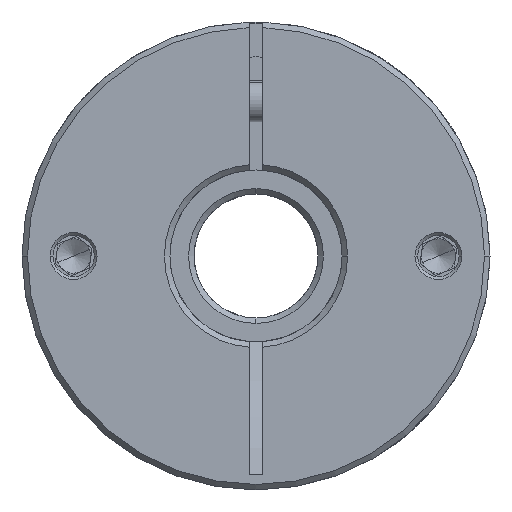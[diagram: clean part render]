
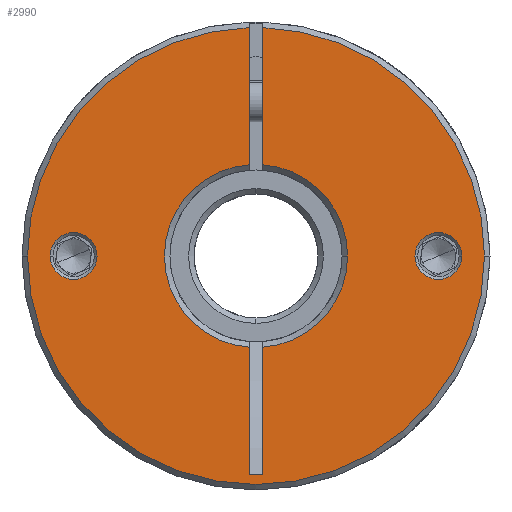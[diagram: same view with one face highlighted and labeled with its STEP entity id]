
A CAD part, front view. The second image highlights one B-rep face of the part: STEP entity #2990.
In plain terms, the highlighted planar face has unit normal (0, -1, 0).
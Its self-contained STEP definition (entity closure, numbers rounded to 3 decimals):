
#7 = DIRECTION ( 'NONE',  ( 1., 0., 0. ) ) ;
#125 = CIRCLE ( 'NONE', #8495, 3.4 ) ;
#247 = ORIENTED_EDGE ( 'NONE', *, *, #12797, .T. ) ;
#266 = CARTESIAN_POINT ( 'NONE',  ( -1.735, -47.045, 101.185 ) ) ;
#284 = DIRECTION ( 'NONE',  ( 1., 0., 0. ) ) ;
#430 = VERTEX_POINT ( 'NONE', #9288 ) ;
#737 = EDGE_LOOP ( 'NONE', ( #1073, #9610 ) ) ;
#739 = AXIS2_PLACEMENT_3D ( 'NONE', #10794, #4616, #284 ) ;
#824 = VECTOR ( 'NONE', #13413, 1000. ) ;
#1041 = EDGE_CURVE ( 'NONE', #7541, #5752, #2457, .T. ) ;
#1073 = ORIENTED_EDGE ( 'NONE', *, *, #2490, .T. ) ;
#1090 = DIRECTION ( 'NONE',  ( 0., -1., 0. ) ) ;
#1155 = LINE ( 'NONE', #4132, #824 ) ;
#1339 = DIRECTION ( 'NONE',  ( 1., 0., 0. ) ) ;
#1690 = VERTEX_POINT ( 'NONE', #10543 ) ;
#1831 = DIRECTION ( 'NONE',  ( 0., -1., 0. ) ) ;
#2170 = CIRCLE ( 'NONE', #10553, 13.3 ) ;
#2227 = CARTESIAN_POINT ( 'NONE',  ( -3.735, -47.045, 101.185 ) ) ;
#2363 = VECTOR ( 'NONE', #9074, 1000. ) ;
#2401 = CARTESIAN_POINT ( 'NONE',  ( -2.735, -47.045, 68. ) ) ;
#2457 = CIRCLE ( 'NONE', #10150, 13.3 ) ;
#2490 = EDGE_CURVE ( 'NONE', #9104, #4009, #125, .T. ) ;
#2492 = CARTESIAN_POINT ( 'NONE',  ( -3.735, -47.045, 68. ) ) ;
#2747 = VERTEX_POINT ( 'NONE', #12261 ) ;
#2830 = EDGE_CURVE ( 'NONE', #3505, #2747, #13128, .T. ) ;
#2990 = ADVANCED_FACE ( 'NONE', ( #11823, #12480, #13277 ), #4861, .T. ) ;
#3123 = CARTESIAN_POINT ( 'NONE',  ( -3.735, -47.045, 36.279 ) ) ;
#3293 = DIRECTION ( 'NONE',  ( 1., 0., 0. ) ) ;
#3430 = DIRECTION ( 'NONE',  ( 0., 1., 0. ) ) ;
#3452 = EDGE_CURVE ( 'NONE', #4009, #9104, #3943, .T. ) ;
#3476 = EDGE_LOOP ( 'NONE', ( #7852, #4144, #5753, #4987, #10236, #11111, #12603, #247, #10885, #6417, #8169 ) ) ;
#3505 = VERTEX_POINT ( 'NONE', #6779 ) ;
#3529 = CIRCLE ( 'NONE', #3965, 33.2 ) ;
#3828 = CIRCLE ( 'NONE', #4522, 3.4 ) ;
#3831 = ORIENTED_EDGE ( 'NONE', *, *, #7036, .T. ) ;
#3873 = CARTESIAN_POINT ( 'NONE',  ( 23.765, -47.045, 68. ) ) ;
#3943 = CIRCLE ( 'NONE', #739, 3.4 ) ;
#3965 = AXIS2_PLACEMENT_3D ( 'NONE', #6507, #7438, #7490 ) ;
#4009 = VERTEX_POINT ( 'NONE', #11022 ) ;
#4132 = CARTESIAN_POINT ( 'NONE',  ( -3.735, -47.045, 68. ) ) ;
#4144 = ORIENTED_EDGE ( 'NONE', *, *, #9112, .T. ) ;
#4339 = CARTESIAN_POINT ( 'NONE',  ( -2.735, -47.045, 68. ) ) ;
#4410 = DIRECTION ( 'NONE',  ( 0., 1., 0. ) ) ;
#4522 = AXIS2_PLACEMENT_3D ( 'NONE', #3873, #5017, #13115 ) ;
#4595 = VERTEX_POINT ( 'NONE', #3123 ) ;
#4616 = DIRECTION ( 'NONE',  ( 0., 1., 0. ) ) ;
#4746 = CARTESIAN_POINT ( 'NONE',  ( 10.565, -47.045, 68. ) ) ;
#4773 = EDGE_CURVE ( 'NONE', #3505, #4595, #6820, .T. ) ;
#4861 = PLANE ( 'NONE',  #7247 ) ;
#4987 = ORIENTED_EDGE ( 'NONE', *, *, #6260, .T. ) ;
#5017 = DIRECTION ( 'NONE',  ( 0., 1., 0. ) ) ;
#5153 = LINE ( 'NONE', #11561, #13256 ) ;
#5752 = VERTEX_POINT ( 'NONE', #4746 ) ;
#5753 = ORIENTED_EDGE ( 'NONE', *, *, #10074, .T. ) ;
#5859 = AXIS2_PLACEMENT_3D ( 'NONE', #2401, #11691, #1339 ) ;
#5960 = DIRECTION ( 'NONE',  ( 1., 0., 0. ) ) ;
#5976 = AXIS2_PLACEMENT_3D ( 'NONE', #6196, #1090, #7 ) ;
#6196 = CARTESIAN_POINT ( 'NONE',  ( -2.735, -47.045, 68. ) ) ;
#6260 = EDGE_CURVE ( 'NONE', #12568, #10890, #12819, .T. ) ;
#6417 = ORIENTED_EDGE ( 'NONE', *, *, #4773, .F. ) ;
#6452 = DIRECTION ( 'NONE',  ( 1., 0., 0. ) ) ;
#6488 = DIRECTION ( 'NONE',  ( 0., 1., 0. ) ) ;
#6507 = CARTESIAN_POINT ( 'NONE',  ( -2.735, -47.045, 68. ) ) ;
#6698 = CARTESIAN_POINT ( 'NONE',  ( -2.735, -47.045, 68. ) ) ;
#6779 = CARTESIAN_POINT ( 'NONE',  ( -3.735, -47.045, 54.738 ) ) ;
#6820 = LINE ( 'NONE', #2492, #7487 ) ;
#6977 = VERTEX_POINT ( 'NONE', #2227 ) ;
#7004 = CARTESIAN_POINT ( 'NONE',  ( -3.735, -47.045, 36.279 ) ) ;
#7036 = EDGE_CURVE ( 'NONE', #9270, #12590, #13143, .T. ) ;
#7211 = VERTEX_POINT ( 'NONE', #13270 ) ;
#7247 = AXIS2_PLACEMENT_3D ( 'NONE', #12044, #1831, #5960 ) ;
#7290 = AXIS2_PLACEMENT_3D ( 'NONE', #4339, #12575, #12530 ) ;
#7438 = DIRECTION ( 'NONE',  ( 0., -1., 0. ) ) ;
#7487 = VECTOR ( 'NONE', #12790, 1000. ) ;
#7490 = DIRECTION ( 'NONE',  ( 1., 0., 0. ) ) ;
#7535 = CARTESIAN_POINT ( 'NONE',  ( -29.235, -47.045, 68. ) ) ;
#7541 = VERTEX_POINT ( 'NONE', #12249 ) ;
#7852 = ORIENTED_EDGE ( 'NONE', *, *, #12906, .F. ) ;
#7925 = CARTESIAN_POINT ( 'NONE',  ( -1.735, -47.045, 68. ) ) ;
#8014 = DIRECTION ( 'NONE',  ( 0., 0., -1. ) ) ;
#8169 = ORIENTED_EDGE ( 'NONE', *, *, #2830, .T. ) ;
#8461 = CARTESIAN_POINT ( 'NONE',  ( 30.465, -47.045, 68. ) ) ;
#8495 = AXIS2_PLACEMENT_3D ( 'NONE', #7535, #3430, #11759 ) ;
#8855 = CARTESIAN_POINT ( 'NONE',  ( 27.165, -47.045, 68. ) ) ;
#9065 = AXIS2_PLACEMENT_3D ( 'NONE', #12609, #6488, #6452 ) ;
#9074 = DIRECTION ( 'NONE',  ( -1., 0., 0. ) ) ;
#9104 = VERTEX_POINT ( 'NONE', #12680 ) ;
#9112 = EDGE_CURVE ( 'NONE', #6977, #1690, #3529, .T. ) ;
#9270 = VERTEX_POINT ( 'NONE', #8855 ) ;
#9288 = CARTESIAN_POINT ( 'NONE',  ( -1.735, -47.045, 54.738 ) ) ;
#9485 = CARTESIAN_POINT ( 'NONE',  ( -2.735, -47.045, 68. ) ) ;
#9610 = ORIENTED_EDGE ( 'NONE', *, *, #3452, .T. ) ;
#9848 = DIRECTION ( 'NONE',  ( 0., 1., 0. ) ) ;
#10074 = EDGE_CURVE ( 'NONE', #1690, #12568, #10934, .T. ) ;
#10150 = AXIS2_PLACEMENT_3D ( 'NONE', #6698, #9848, #13305 ) ;
#10236 = ORIENTED_EDGE ( 'NONE', *, *, #10472, .T. ) ;
#10403 = VECTOR ( 'NONE', #8014, 1000. ) ;
#10472 = EDGE_CURVE ( 'NONE', #10890, #7541, #5153, .T. ) ;
#10543 = CARTESIAN_POINT ( 'NONE',  ( -35.935, -47.045, 68. ) ) ;
#10553 = AXIS2_PLACEMENT_3D ( 'NONE', #9485, #4410, #3293 ) ;
#10794 = CARTESIAN_POINT ( 'NONE',  ( -29.235, -47.045, 68. ) ) ;
#10885 = ORIENTED_EDGE ( 'NONE', *, *, #10906, .T. ) ;
#10890 = VERTEX_POINT ( 'NONE', #266 ) ;
#10906 = EDGE_CURVE ( 'NONE', #7211, #4595, #12092, .T. ) ;
#10934 = CIRCLE ( 'NONE', #5859, 33.2 ) ;
#11022 = CARTESIAN_POINT ( 'NONE',  ( -32.635, -47.045, 68. ) ) ;
#11111 = ORIENTED_EDGE ( 'NONE', *, *, #1041, .T. ) ;
#11262 = ORIENTED_EDGE ( 'NONE', *, *, #11834, .T. ) ;
#11561 = CARTESIAN_POINT ( 'NONE',  ( -1.735, -47.045, 68. ) ) ;
#11568 = EDGE_CURVE ( 'NONE', #5752, #430, #2170, .T. ) ;
#11691 = DIRECTION ( 'NONE',  ( 0., -1., 0. ) ) ;
#11759 = DIRECTION ( 'NONE',  ( 1., 0., 0. ) ) ;
#11823 = FACE_BOUND ( 'NONE', #13089, .T. ) ;
#11834 = EDGE_CURVE ( 'NONE', #12590, #9270, #3828, .T. ) ;
#12044 = CARTESIAN_POINT ( 'NONE',  ( -2.735, -47.045, 68. ) ) ;
#12092 = LINE ( 'NONE', #7004, #2363 ) ;
#12249 = CARTESIAN_POINT ( 'NONE',  ( -1.735, -47.045, 81.262 ) ) ;
#12261 = CARTESIAN_POINT ( 'NONE',  ( -3.735, -47.045, 81.262 ) ) ;
#12480 = FACE_BOUND ( 'NONE', #737, .T. ) ;
#12530 = DIRECTION ( 'NONE',  ( 1., 0., 0. ) ) ;
#12568 = VERTEX_POINT ( 'NONE', #8461 ) ;
#12575 = DIRECTION ( 'NONE',  ( 0., 1., 0. ) ) ;
#12590 = VERTEX_POINT ( 'NONE', #12623 ) ;
#12603 = ORIENTED_EDGE ( 'NONE', *, *, #11568, .T. ) ;
#12609 = CARTESIAN_POINT ( 'NONE',  ( 23.765, -47.045, 68. ) ) ;
#12623 = CARTESIAN_POINT ( 'NONE',  ( 20.365, -47.045, 68. ) ) ;
#12668 = DIRECTION ( 'NONE',  ( 0., 0., -1. ) ) ;
#12680 = CARTESIAN_POINT ( 'NONE',  ( -25.835, -47.045, 68. ) ) ;
#12790 = DIRECTION ( 'NONE',  ( 0., 0., -1. ) ) ;
#12797 = EDGE_CURVE ( 'NONE', #430, #7211, #13197, .T. ) ;
#12819 = CIRCLE ( 'NONE', #5976, 33.2 ) ;
#12906 = EDGE_CURVE ( 'NONE', #6977, #2747, #1155, .T. ) ;
#13089 = EDGE_LOOP ( 'NONE', ( #3831, #11262 ) ) ;
#13115 = DIRECTION ( 'NONE',  ( 1., 0., 0. ) ) ;
#13128 = CIRCLE ( 'NONE', #7290, 13.3 ) ;
#13143 = CIRCLE ( 'NONE', #9065, 3.4 ) ;
#13197 = LINE ( 'NONE', #7925, #10403 ) ;
#13256 = VECTOR ( 'NONE', #12668, 1000. ) ;
#13270 = CARTESIAN_POINT ( 'NONE',  ( -1.735, -47.045, 36.279 ) ) ;
#13277 = FACE_OUTER_BOUND ( 'NONE', #3476, .T. ) ;
#13305 = DIRECTION ( 'NONE',  ( 1., 0., 0. ) ) ;
#13413 = DIRECTION ( 'NONE',  ( 0., 0., -1. ) ) ;
